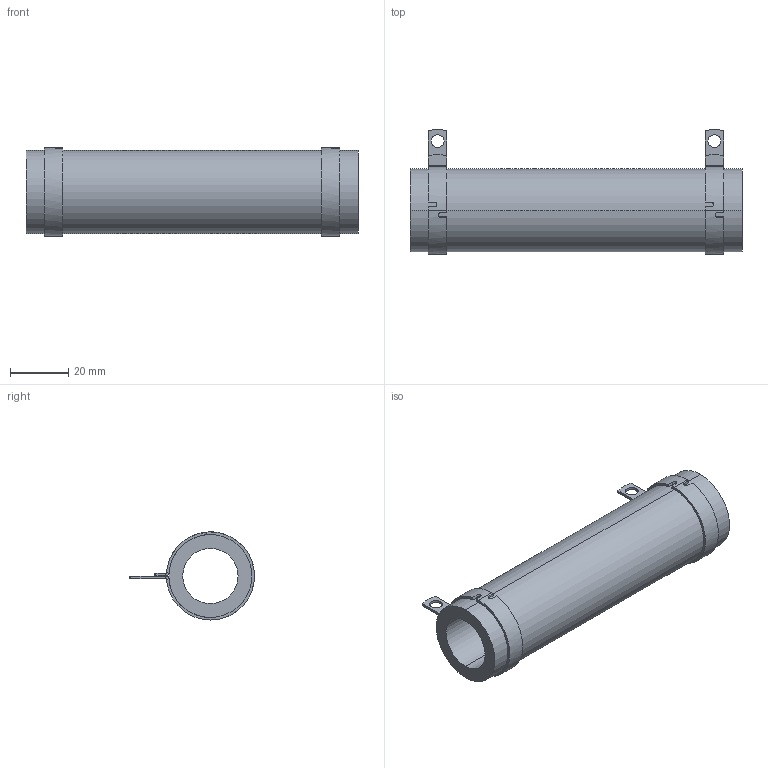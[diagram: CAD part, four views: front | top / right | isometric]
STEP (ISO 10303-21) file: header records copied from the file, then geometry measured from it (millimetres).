
FILE_DESCRIPTION (( 'STEP AP203' ), '1' );
FILE_NAME ('RBEF0175xxxxxKFB00.STEP', '2014-04-04T18:43:40', ( '' ), ( '' ), 'SwSTEP 2.0', 'SolidWorks 2012', '' );
FILE_SCHEMA (( 'CONFIG_CONTROL_DESIGN' ));
Length unit declared in the file: millimetre
Products named in the file (3): DAL013-06_DAL013-127; DAL15-160-XXX_DAL15-160-918-CLOSED; RBEF0175xxxxxKFB00
Assembly tree (3 placements, depth 2):
  RBEF0175xxxxxKFB00
    DAL013-06_DAL013-127
    DAL15-160-XXX_DAL15-160-918-CLOSED  x2
Bounding box: 114.3 x 43.03 x 30.35 mm (x, y, z)
Volume: 41904 mm3; surface area: 20920.5 mm2
Topology: 3 solids, 3 shells, 80 faces, 190 edges, 116 vertices
Faces by surface type: plane 42, cylinder 34, bspline 4
Entity records: 1692 total; most frequent: CARTESIAN_POINT 352, DIRECTION 229, ORIENTED_EDGE 202, EDGE_CURVE 101, AXIS2_PLACEMENT_3D 89, VERTEX_POINT 62, LINE 51, VECTOR 51
